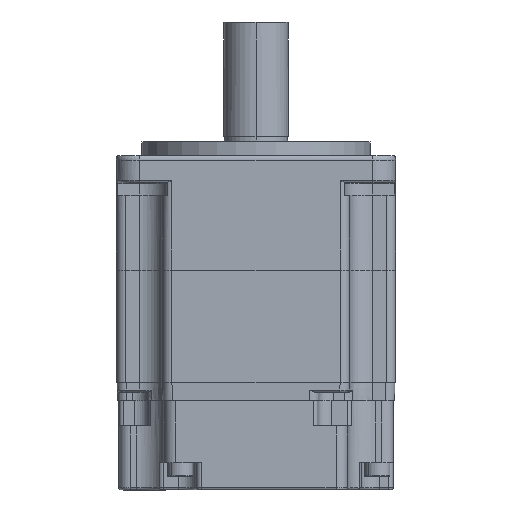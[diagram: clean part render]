
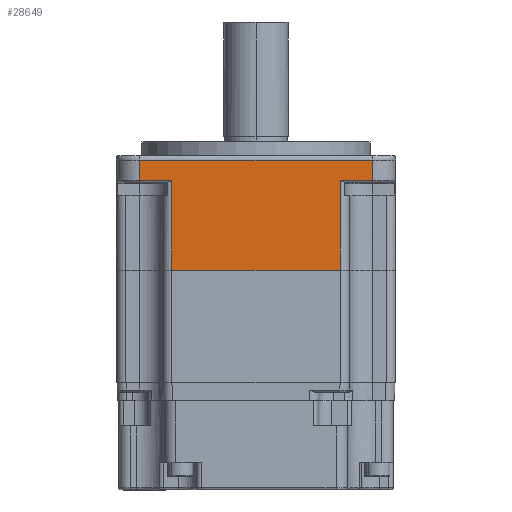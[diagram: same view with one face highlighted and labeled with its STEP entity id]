
A CAD part, front view. The second image highlights one B-rep face of the part: STEP entity #28649.
In plain terms, the highlighted planar face has unit normal (0, -1, 0).
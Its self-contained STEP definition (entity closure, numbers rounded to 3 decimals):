
#2401 = DIRECTION ( 'NONE',  ( 1., 0., 0. ) ) ;
#3365 = EDGE_CURVE ( 'NONE', #39832, #49803, #40441, .T. ) ;
#3594 = PLANE ( 'NONE',  #26880 ) ;
#3678 = VECTOR ( 'NONE', #67517, 1000. ) ;
#6025 = VECTOR ( 'NONE', #2401, 1000. ) ;
#6873 = ORIENTED_EDGE ( 'NONE', *, *, #3365, .T. ) ;
#8558 = LINE ( 'NONE', #12856, #6025 ) ;
#9039 = DIRECTION ( 'NONE',  ( 0., 1., 0. ) ) ;
#10877 = CARTESIAN_POINT ( 'NONE',  ( -306.616, -30.381, -79.012 ) ) ;
#11050 = ORIENTED_EDGE ( 'NONE', *, *, #44857, .T. ) ;
#12801 = CARTESIAN_POINT ( 'NONE',  ( -299.599, -30.381, -35.564 ) ) ;
#12856 = CARTESIAN_POINT ( 'NONE',  ( -299.599, -30.381, -15.953 ) ) ;
#13189 = LINE ( 'NONE', #12801, #33852 ) ;
#13635 = CARTESIAN_POINT ( 'NONE',  ( -299.599, -30.381, -15.953 ) ) ;
#14224 = EDGE_LOOP ( 'NONE', ( #38304, #63916, #34420, #60029, #6873, #45071, #42758, #11050 ) ) ;
#16428 = VECTOR ( 'NONE', #18009, 1000. ) ;
#18009 = DIRECTION ( 'NONE',  ( 1., 0., 0. ) ) ;
#19662 = CARTESIAN_POINT ( 'NONE',  ( -306.616, -30.381, -15.953 ) ) ;
#20951 = VERTEX_POINT ( 'NONE', #48495 ) ;
#21044 = CARTESIAN_POINT ( 'NONE',  ( -350.382, -30.381, -15.953 ) ) ;
#25545 = DIRECTION ( 'NONE',  ( 0., 0., -1. ) ) ;
#25790 = VERTEX_POINT ( 'NONE', #37416 ) ;
#26711 = LINE ( 'NONE', #42507, #44224 ) ;
#26880 = AXIS2_PLACEMENT_3D ( 'NONE', #58284, #9039, #32008 ) ;
#28649 = ADVANCED_FACE ( 'NONE', ( #58627 ), #3594, .F. ) ;
#28989 = CARTESIAN_POINT ( 'NONE',  ( -299.618, -30.381, -79.012 ) ) ;
#29561 = VECTOR ( 'NONE', #25545, 1000. ) ;
#30437 = VERTEX_POINT ( 'NONE', #19662 ) ;
#32008 = DIRECTION ( 'NONE',  ( 1., 0., 0. ) ) ;
#32533 = EDGE_CURVE ( 'NONE', #30437, #39832, #8558, .T. ) ;
#32790 = DIRECTION ( 'NONE',  ( 0., 0., 1. ) ) ;
#33820 = VERTEX_POINT ( 'NONE', #42285 ) ;
#33852 = VECTOR ( 'NONE', #57743, 1000. ) ;
#34132 = VERTEX_POINT ( 'NONE', #21044 ) ;
#34420 = ORIENTED_EDGE ( 'NONE', *, *, #65652, .T. ) ;
#37416 = CARTESIAN_POINT ( 'NONE',  ( -306.616, -30.381, -35.564 ) ) ;
#38304 = ORIENTED_EDGE ( 'NONE', *, *, #58669, .T. ) ;
#38547 = VECTOR ( 'NONE', #67437, 1000. ) ;
#39832 = VERTEX_POINT ( 'NONE', #70808 ) ;
#40040 = EDGE_CURVE ( 'NONE', #49803, #33820, #50637, .T. ) ;
#40441 = LINE ( 'NONE', #28989, #38547 ) ;
#42152 = DIRECTION ( 'NONE',  ( 0., 0., 1. ) ) ;
#42285 = CARTESIAN_POINT ( 'NONE',  ( -350.382, -30.381, -11.509 ) ) ;
#42417 = EDGE_CURVE ( 'NONE', #67766, #25790, #13189, .T. ) ;
#42507 = CARTESIAN_POINT ( 'NONE',  ( -350.382, -30.381, -79.012 ) ) ;
#42666 = VECTOR ( 'NONE', #32790, 1000. ) ;
#42758 = ORIENTED_EDGE ( 'NONE', *, *, #42925, .F. ) ;
#42925 = EDGE_CURVE ( 'NONE', #34132, #33820, #26711, .T. ) ;
#44224 = VECTOR ( 'NONE', #42152, 1000. ) ;
#44857 = EDGE_CURVE ( 'NONE', #34132, #20951, #62177, .T. ) ;
#45071 = ORIENTED_EDGE ( 'NONE', *, *, #40040, .T. ) ;
#48495 = CARTESIAN_POINT ( 'NONE',  ( -343.384, -30.381, -15.953 ) ) ;
#49803 = VERTEX_POINT ( 'NONE', #53718 ) ;
#50637 = LINE ( 'NONE', #56372, #3678 ) ;
#53718 = CARTESIAN_POINT ( 'NONE',  ( -299.618, -30.381, -11.509 ) ) ;
#56372 = CARTESIAN_POINT ( 'NONE',  ( -299.599, -30.381, -11.509 ) ) ;
#57743 = DIRECTION ( 'NONE',  ( 1., 0., 0. ) ) ;
#58284 = CARTESIAN_POINT ( 'NONE',  ( -299.599, -30.381, -79.012 ) ) ;
#58627 = FACE_OUTER_BOUND ( 'NONE', #14224, .T. ) ;
#58669 = EDGE_CURVE ( 'NONE', #20951, #67766, #68359, .T. ) ;
#60029 = ORIENTED_EDGE ( 'NONE', *, *, #32533, .T. ) ;
#60126 = LINE ( 'NONE', #10877, #42666 ) ;
#62177 = LINE ( 'NONE', #13635, #16428 ) ;
#63602 = CARTESIAN_POINT ( 'NONE',  ( -343.384, -30.381, -35.564 ) ) ;
#63687 = CARTESIAN_POINT ( 'NONE',  ( -343.384, -30.381, -45.562 ) ) ;
#63916 = ORIENTED_EDGE ( 'NONE', *, *, #42417, .T. ) ;
#65652 = EDGE_CURVE ( 'NONE', #25790, #30437, #60126, .T. ) ;
#67437 = DIRECTION ( 'NONE',  ( 0., 0., 1. ) ) ;
#67517 = DIRECTION ( 'NONE',  ( -1., 0., 0. ) ) ;
#67766 = VERTEX_POINT ( 'NONE', #63602 ) ;
#68359 = LINE ( 'NONE', #63687, #29561 ) ;
#70808 = CARTESIAN_POINT ( 'NONE',  ( -299.618, -30.381, -15.953 ) ) ;
